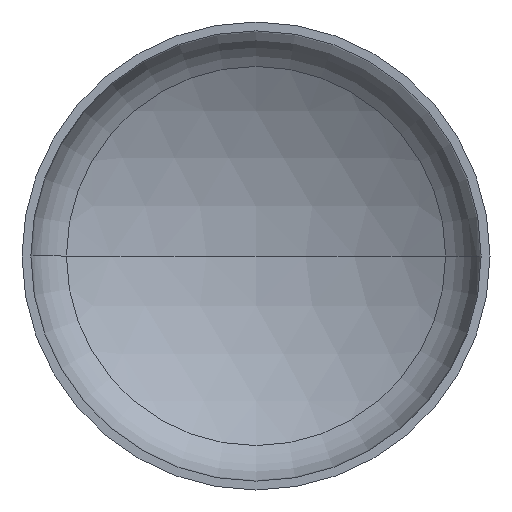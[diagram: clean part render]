
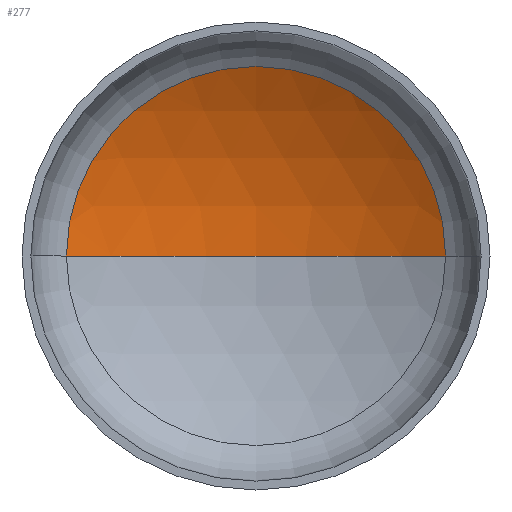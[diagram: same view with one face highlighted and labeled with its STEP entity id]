
A CAD part, front view. The second image highlights one B-rep face of the part: STEP entity #277.
In plain terms, the highlighted spherical face has radius 3200 mm.
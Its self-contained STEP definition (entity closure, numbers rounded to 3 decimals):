
#17 = AXIS2_PLACEMENT_3D ( 'NONE', #184, #56, #400 ) ;
#24 = CARTESIAN_POINT ( 'NONE',  ( -1620.426, 650.32, 0. ) ) ;
#27 = AXIS2_PLACEMENT_3D ( 'NONE', #194, #196, #164 ) ;
#31 = AXIS2_PLACEMENT_3D ( 'NONE', #221, #214, #213 ) ;
#34 = AXIS2_PLACEMENT_3D ( 'NONE', #304, #302, #301 ) ;
#35 = EDGE_LOOP ( 'NONE', ( #97, #89, #123 ) ) ;
#56 = DIRECTION ( 'NONE',  ( 0., 0., -1. ) ) ;
#73 = EDGE_CURVE ( 'NONE', #83, #122, #359, .T. ) ;
#74 = EDGE_CURVE ( 'NONE', #171, #83, #289, .T. ) ;
#75 = EDGE_CURVE ( 'NONE', #171, #122, #151, .T. ) ;
#83 = VERTEX_POINT ( 'NONE', #198 ) ;
#89 = ORIENTED_EDGE ( 'NONE', *, *, #74, .T. ) ;
#97 = ORIENTED_EDGE ( 'NONE', *, *, #75, .F. ) ;
#117 = FACE_OUTER_BOUND ( 'NONE', #35, .T. ) ;
#122 = VERTEX_POINT ( 'NONE', #24 ) ;
#123 = ORIENTED_EDGE ( 'NONE', *, *, #73, .T. ) ;
#151 = CIRCLE ( 'NONE', #27, 3200. ) ;
#164 = DIRECTION ( 'NONE',  ( 1., 0., 0. ) ) ;
#171 = VERTEX_POINT ( 'NONE', #187 ) ;
#184 = CARTESIAN_POINT ( 'NONE',  ( 0., -2109.068, 0. ) ) ;
#187 = CARTESIAN_POINT ( 'NONE',  ( 0., 1090.932, 0. ) ) ;
#194 = CARTESIAN_POINT ( 'NONE',  ( 0., -2109.068, 0. ) ) ;
#196 = DIRECTION ( 'NONE',  ( 0., 0., 1. ) ) ;
#198 = CARTESIAN_POINT ( 'NONE',  ( 1620.426, 650.32, 0. ) ) ;
#213 = DIRECTION ( 'NONE',  ( -1., 0., 0. ) ) ;
#214 = DIRECTION ( 'NONE',  ( 0., 0., -1. ) ) ;
#221 = CARTESIAN_POINT ( 'NONE',  ( 0., -2109.068, 0. ) ) ;
#277 = ADVANCED_FACE ( 'NONE', ( #117 ), #394, .F. ) ;
#289 = CIRCLE ( 'NONE', #31, 3200. ) ;
#301 = DIRECTION ( 'NONE',  ( 1., 0., 0. ) ) ;
#302 = DIRECTION ( 'NONE',  ( 0., -1., 0. ) ) ;
#304 = CARTESIAN_POINT ( 'NONE',  ( 0., 650.32, 0. ) ) ;
#359 = CIRCLE ( 'NONE', #34, 1620.426 ) ;
#394 = SPHERICAL_SURFACE ( 'NONE', #17, 3200. ) ;
#400 = DIRECTION ( 'NONE',  ( -1., 0., 0. ) ) ;
